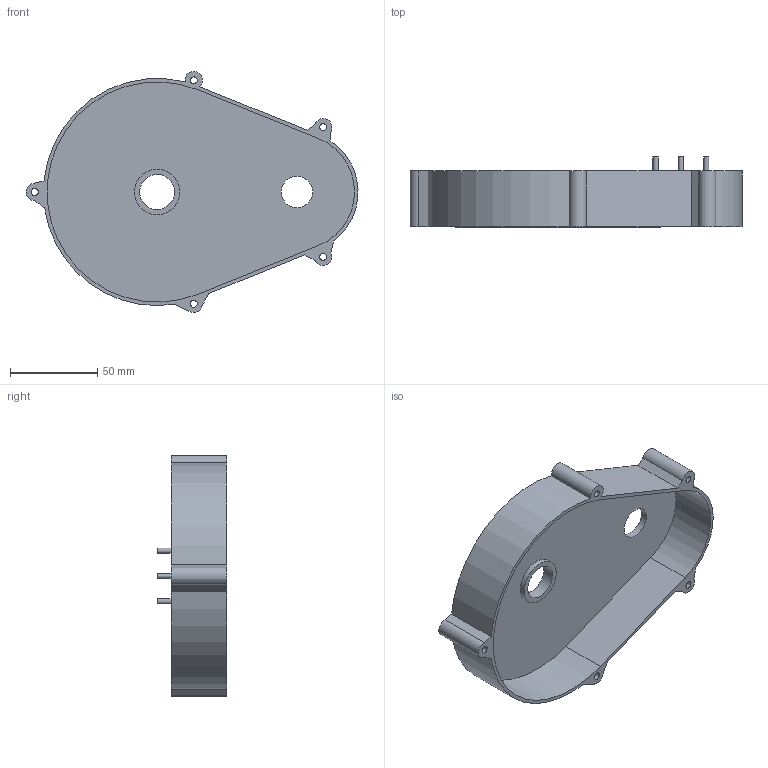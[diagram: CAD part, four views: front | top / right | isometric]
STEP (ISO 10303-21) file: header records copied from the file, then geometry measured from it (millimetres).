
FILE_DESCRIPTION(('STEP AP242'), '1');
FILE_NAME('扻豵鵨', '', ('UNSPECIFIED'), ('UNSPECIFIED'), 'C3D Converter', 'C3D Toolkit', '');
FILE_SCHEMA(('AP242_MANAGED_MODEL_BASED_3D_ENGINEERING_MIM_LF { 1 0 10303 442 1 1 4 }'));
Length unit declared in the file: millimetre
Bounding box: 189.98 x 40 x 137.84 mm (x, y, z)
Volume: 106781.7 mm3; surface area: 67688.7 mm2
Topology: 1 solids, 1 shells, 42 faces, 102 edges, 68 vertices
Faces by surface type: cylinder 22, plane 20
Full cylindrical faces by diameter (mm): 3 x4, 4 x5, 18 x1, 20 x1, 26 x1
Entity records: 1258 total; most frequent: DIRECTION 220, CARTESIAN_POINT 201, ORIENTED_EDGE 180, EDGE_CURVE 90, AXIS2_PLACEMENT_3D 87, EDGE_LOOP 74, VERTEX_POINT 68, FACE_BOUND 50
